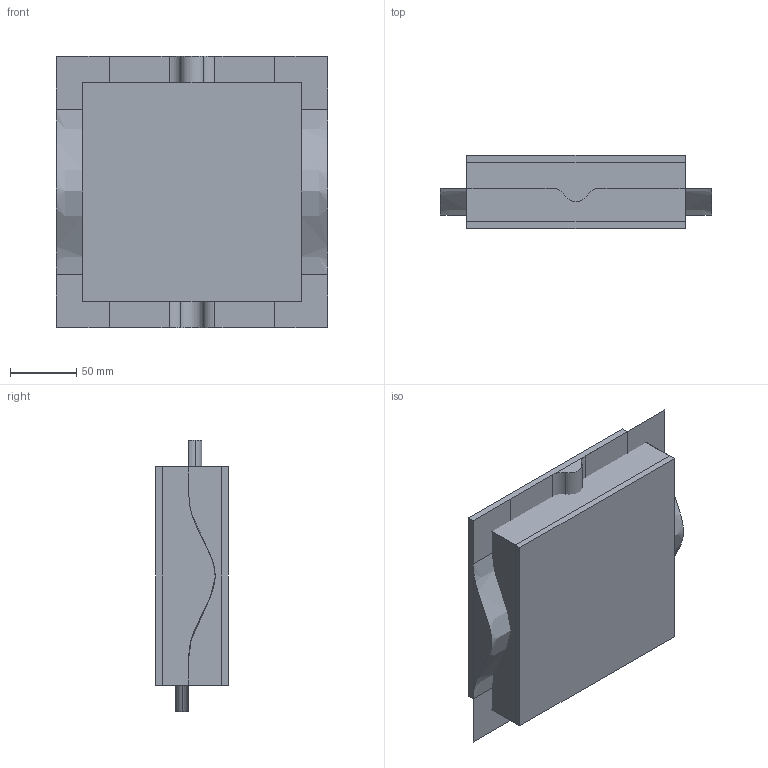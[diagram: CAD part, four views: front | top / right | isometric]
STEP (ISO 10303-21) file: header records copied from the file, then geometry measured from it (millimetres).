
FILE_DESCRIPTION(('CATIA V5 STEP Exchange'),'2;1');
FILE_NAME('C:\_Andres\UNIVERSIDAD\IQS\ASIGNATURAS\DAO\EXF\EXF-16172c\2inicio\Quiroga_Garcia_Ej02_v25.stp','2017-03-05T15:45:33+00:00',('none'),('none'),'CATIA Version 5-6 Release 2014 SP1 HF18','CATIA V5 STEP AP203','none');
FILE_SCHEMA(('CONFIG_CONTROL_DESIGN'));
Length unit declared in the file: millimetre
Products named in the file (1): Quiroga_Garcia_Ej02_v25
Bounding box: 205 x 55 x 205 mm (x, y, z)
Surface area: 272282.7 mm2
Topology: 3 solids, 10 shells, 72 faces, 205 edges, 150 vertices
Faces by surface type: bspline 32, plane 32, cylinder 6, extrusion 2
Entity records: 6242 total; most frequent: CARTESIAN_POINT 4925, ORIENTED_EDGE 288, DIRECTION 151, EDGE_CURVE 132, VERTEX_POINT 84, VECTOR 77, LINE 75, ADVANCED_FACE 72
